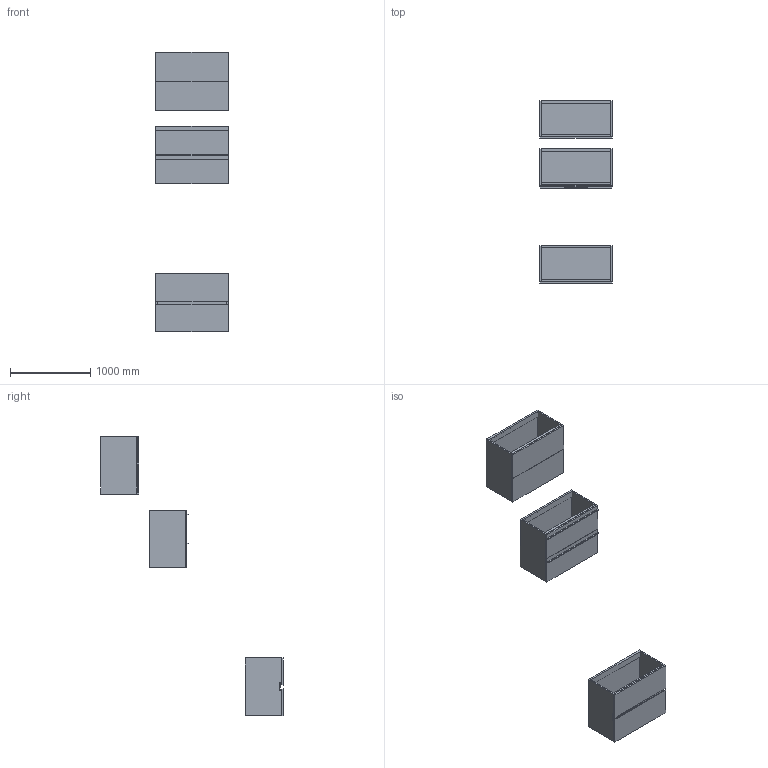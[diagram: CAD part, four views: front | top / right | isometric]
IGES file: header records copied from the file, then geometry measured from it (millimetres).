
Start section: Data from Parasolid IGES Translator 19.0.9, Copyright(c) 2006 Siemens PL M Software. All Rights Reserved.
Global section: file name: noorth-SI-H 72 D 47 W 90_8608.igs; native system: By Siemens PLM Incorporated; preprocessor: XPlus GENERIC/IGES 19.0.9; author: Noname; organization: Noname; date: 20200601.121053; units: metre
Bounding box: 900 x 2270 x 3480.01 mm (x, y, z)
Volume: 98840490.9 mm3; surface area: 15400081.6 mm2
Topology: 27 solids, 27 shells, 266 faces, 580 edges, 348 vertices
Faces by surface type: plane 182, extrusion 36, bspline 32, cylinder 16
